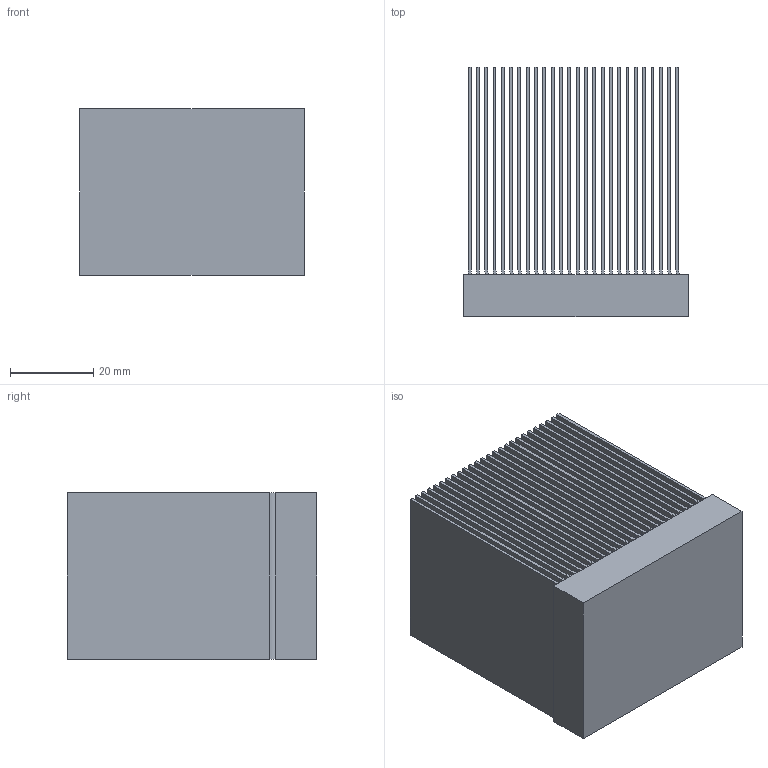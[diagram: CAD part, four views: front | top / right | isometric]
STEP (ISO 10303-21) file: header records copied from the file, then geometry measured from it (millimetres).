
FILE_DESCRIPTION (( 'STEP AP203' ), '1' );
FILE_NAME ('RX616-054-00.STEP', '2026-07-16T09:07:43', ( '' ), ( '' ), 'SwSTEP 2.0', 'SolidWorks 2023', '' );
FILE_SCHEMA (( 'CONFIG_CONTROL_DESIGN' ));
Length unit declared in the file: millimetre
Products named in the file (1): RX616-054-00
Bounding box: 54 x 60 x 40 mm (x, y, z)
Volume: 58000 mm3; surface area: 113554.9 mm2
Topology: 27 solids, 27 shells, 214 faces, 480 edges, 320 vertices
Faces by surface type: plane 162, cylinder 52
Entity records: 5953 total; most frequent: CARTESIAN_POINT 1015, DIRECTION 1014, ORIENTED_EDGE 960, EDGE_CURVE 480, VECTOR 376, LINE 376, VERTEX_POINT 320, AXIS2_PLACEMENT_3D 319
